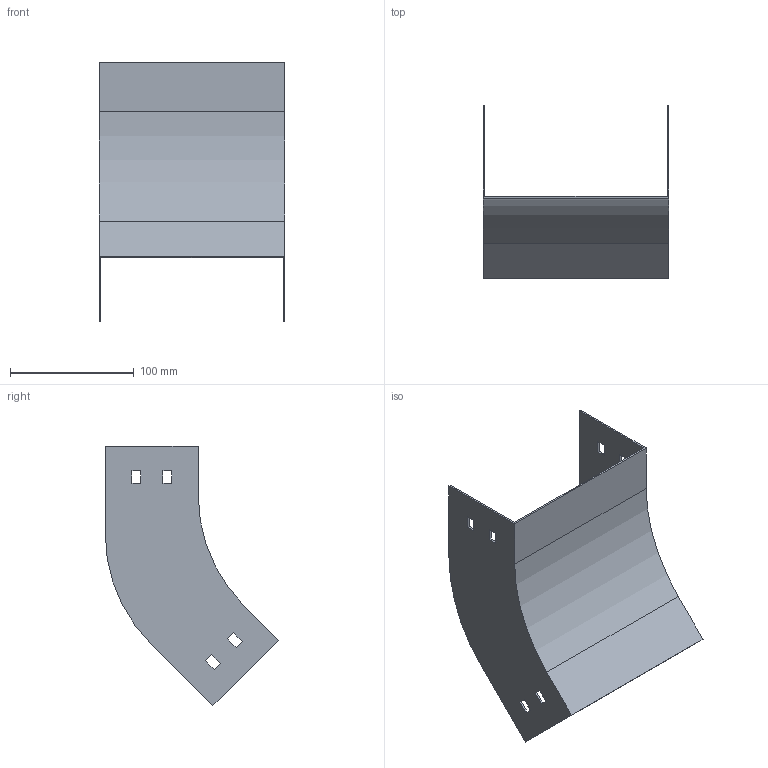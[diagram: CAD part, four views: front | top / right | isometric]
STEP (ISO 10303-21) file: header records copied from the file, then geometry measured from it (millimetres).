
FILE_DESCRIPTION (( 'STEP AP214' ), '1' );
FILE_NAME ('D4_157.step', '2025-07-16T09:07:04', ( '' ), ( '' ), 'SwSTEP 2.0', 'SolidWorks 2023', '' );
FILE_SCHEMA (( 'AUTOMOTIVE_DESIGN' ));
Length unit declared in the file: millimetre
Products named in the file (1): D4_157
Bounding box: 150 x 139.9 x 209.71 mm (x, y, z)
Volume: 86866.8 mm3; surface area: 117840.5 mm2
Topology: 1 solids, 1 shells, 50 faces, 144 edges, 96 vertices
Faces by surface type: plane 46, cylinder 4
Entity records: 1671 total; most frequent: CARTESIAN_POINT 291, ORIENTED_EDGE 288, DIRECTION 254, EDGE_CURVE 144, VECTOR 136, LINE 136, VERTEX_POINT 96, EDGE_LOOP 66
